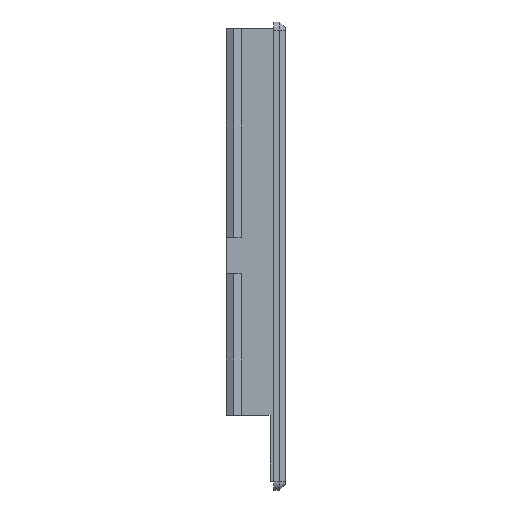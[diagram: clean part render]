
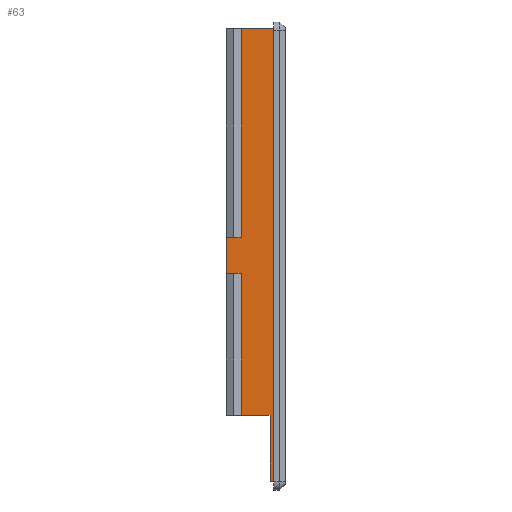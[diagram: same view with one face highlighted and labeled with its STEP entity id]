
A CAD part, front view. The second image highlights one B-rep face of the part: STEP entity #63.
In plain terms, the highlighted planar face has unit normal (0, -1, 0).
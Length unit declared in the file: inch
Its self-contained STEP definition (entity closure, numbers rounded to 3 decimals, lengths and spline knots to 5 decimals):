
#57 = CARTESIAN_POINT ( 'NONE',  ( -0.03, 0.07283, -0.05591 ) ) ;
#63 = ADVANCED_FACE ( 'NONE', ( #634 ), #1213, .F. ) ;
#80 = VERTEX_POINT ( 'NONE', #1801 ) ;
#213 = CARTESIAN_POINT ( 'NONE',  ( 0., 0.07283, -3.82924 ) ) ;
#310 = ORIENTED_EDGE ( 'NONE', *, *, #2126, .T. ) ;
#313 = VERTEX_POINT ( 'NONE', #1699 ) ;
#395 = ORIENTED_EDGE ( 'NONE', *, *, #693, .F. ) ;
#425 = EDGE_CURVE ( 'NONE', #3680, #1161, #2094, .T. ) ;
#434 = CARTESIAN_POINT ( 'NONE',  ( -0.03, 0.07283, -3.27924 ) ) ;
#443 = VERTEX_POINT ( 'NONE', #3717 ) ;
#505 = DIRECTION ( 'NONE',  ( 1., 0., 0. ) ) ;
#557 = VECTOR ( 'NONE', #1133, 39.37008 ) ;
#566 = LINE ( 'NONE', #2232, #3331 ) ;
#610 = EDGE_LOOP ( 'NONE', ( #913, #310, #3142, #1195, #770, #831, #1843, #2786, #395, #3364 ) ) ;
#634 = FACE_OUTER_BOUND ( 'NONE', #610, .T. ) ;
#661 = DIRECTION ( 'NONE',  ( 0., 0., 1. ) ) ;
#675 = VECTOR ( 'NONE', #2105, 39.37008 ) ;
#693 = EDGE_CURVE ( 'NONE', #2392, #313, #3211, .T. ) ;
#697 = EDGE_CURVE ( 'NONE', #1426, #80, #2900, .T. ) ;
#719 = EDGE_CURVE ( 'NONE', #3680, #2392, #907, .T. ) ;
#770 = ORIENTED_EDGE ( 'NONE', *, *, #697, .F. ) ;
#776 = VERTEX_POINT ( 'NONE', #1794 ) ;
#778 = VECTOR ( 'NONE', #3559, 39.37008 ) ;
#831 = ORIENTED_EDGE ( 'NONE', *, *, #2770, .F. ) ;
#862 = VECTOR ( 'NONE', #3180, 39.37008 ) ;
#886 = CARTESIAN_POINT ( 'NONE',  ( -0.03, 0.07283, -3.82924 ) ) ;
#907 = LINE ( 'NONE', #3239, #675 ) ;
#912 = DIRECTION ( 'NONE',  ( -1., 0., 0. ) ) ;
#913 = ORIENTED_EDGE ( 'NONE', *, *, #425, .T. ) ;
#955 = DIRECTION ( 'NONE',  ( 0., 0., 1. ) ) ;
#1123 = CARTESIAN_POINT ( 'NONE',  ( -0.03, 0.07283, -3.27924 ) ) ;
#1133 = DIRECTION ( 'NONE',  ( 1., 0., 0. ) ) ;
#1161 = VERTEX_POINT ( 'NONE', #434 ) ;
#1195 = ORIENTED_EDGE ( 'NONE', *, *, #2017, .T. ) ;
#1213 = PLANE ( 'NONE',  #1737 ) ;
#1392 = CARTESIAN_POINT ( 'NONE',  ( -0.03, 0.07283, -3.82924 ) ) ;
#1426 = VERTEX_POINT ( 'NONE', #3187 ) ;
#1559 = EDGE_CURVE ( 'NONE', #313, #776, #2497, .T. ) ;
#1659 = LINE ( 'NONE', #2967, #2167 ) ;
#1699 = CARTESIAN_POINT ( 'NONE',  ( -0.39348, 0.07283, -2.09725 ) ) ;
#1730 = CARTESIAN_POINT ( 'NONE',  ( -0.27074, 0.07283, -3.27924 ) ) ;
#1737 = AXIS2_PLACEMENT_3D ( 'NONE', #57, #2408, #661 ) ;
#1794 = CARTESIAN_POINT ( 'NONE',  ( -0.39348, 0.07283, -1.79546 ) ) ;
#1801 = CARTESIAN_POINT ( 'NONE',  ( 0., 0.07283, -0.05591 ) ) ;
#1826 = DIRECTION ( 'NONE',  ( 0., 0., -1. ) ) ;
#1827 = VERTEX_POINT ( 'NONE', #213 ) ;
#1831 = CARTESIAN_POINT ( 'NONE',  ( -0.03, 0.07283, -0.05591 ) ) ;
#1839 = VERTEX_POINT ( 'NONE', #1392 ) ;
#1843 = ORIENTED_EDGE ( 'NONE', *, *, #3111, .F. ) ;
#1947 = CARTESIAN_POINT ( 'NONE',  ( -0.27074, 0.07283, -2.09725 ) ) ;
#1970 = EDGE_CURVE ( 'NONE', #1839, #1827, #3753, .T. ) ;
#1995 = VECTOR ( 'NONE', #2146, 39.37008 ) ;
#1996 = VECTOR ( 'NONE', #2050, 39.37008 ) ;
#2017 = EDGE_CURVE ( 'NONE', #1827, #80, #2979, .T. ) ;
#2019 = CARTESIAN_POINT ( 'NONE',  ( 0., 0.07283, -0.05591 ) ) ;
#2050 = DIRECTION ( 'NONE',  ( 1., 0., 0. ) ) ;
#2094 = LINE ( 'NONE', #1123, #557 ) ;
#2105 = DIRECTION ( 'NONE',  ( 0., 0., 1. ) ) ;
#2118 = LINE ( 'NONE', #2396, #2678 ) ;
#2126 = EDGE_CURVE ( 'NONE', #1161, #1839, #2118, .T. ) ;
#2128 = CARTESIAN_POINT ( 'NONE',  ( -0.39348, 0.07283, -1.79546 ) ) ;
#2146 = DIRECTION ( 'NONE',  ( 0., 0., 1. ) ) ;
#2167 = VECTOR ( 'NONE', #955, 39.37008 ) ;
#2232 = CARTESIAN_POINT ( 'NONE',  ( -0.39348, 0.07283, -1.79546 ) ) ;
#2392 = VERTEX_POINT ( 'NONE', #1947 ) ;
#2396 = CARTESIAN_POINT ( 'NONE',  ( -0.03, 0.07283, -0.05591 ) ) ;
#2397 = CARTESIAN_POINT ( 'NONE',  ( -0.39348, 0.07283, -2.09725 ) ) ;
#2408 = DIRECTION ( 'NONE',  ( 0., 1., 0. ) ) ;
#2497 = LINE ( 'NONE', #2128, #1995 ) ;
#2678 = VECTOR ( 'NONE', #1826, 39.37008 ) ;
#2770 = EDGE_CURVE ( 'NONE', #443, #1426, #1659, .T. ) ;
#2786 = ORIENTED_EDGE ( 'NONE', *, *, #1559, .F. ) ;
#2816 = VECTOR ( 'NONE', #912, 39.37008 ) ;
#2900 = LINE ( 'NONE', #1831, #778 ) ;
#2967 = CARTESIAN_POINT ( 'NONE',  ( -0.27074, 0.07283, -4.19934 ) ) ;
#2979 = LINE ( 'NONE', #2019, #862 ) ;
#3111 = EDGE_CURVE ( 'NONE', #776, #443, #566, .T. ) ;
#3142 = ORIENTED_EDGE ( 'NONE', *, *, #1970, .T. ) ;
#3180 = DIRECTION ( 'NONE',  ( 0., 0., 1. ) ) ;
#3187 = CARTESIAN_POINT ( 'NONE',  ( -0.27074, 0.07283, -0.05591 ) ) ;
#3211 = LINE ( 'NONE', #2397, #2816 ) ;
#3239 = CARTESIAN_POINT ( 'NONE',  ( -0.27074, 0.07283, -4.19934 ) ) ;
#3331 = VECTOR ( 'NONE', #505, 39.37008 ) ;
#3364 = ORIENTED_EDGE ( 'NONE', *, *, #719, .F. ) ;
#3559 = DIRECTION ( 'NONE',  ( 1., 0., 0. ) ) ;
#3680 = VERTEX_POINT ( 'NONE', #1730 ) ;
#3717 = CARTESIAN_POINT ( 'NONE',  ( -0.27074, 0.07283, -1.79546 ) ) ;
#3753 = LINE ( 'NONE', #886, #1996 ) ;
